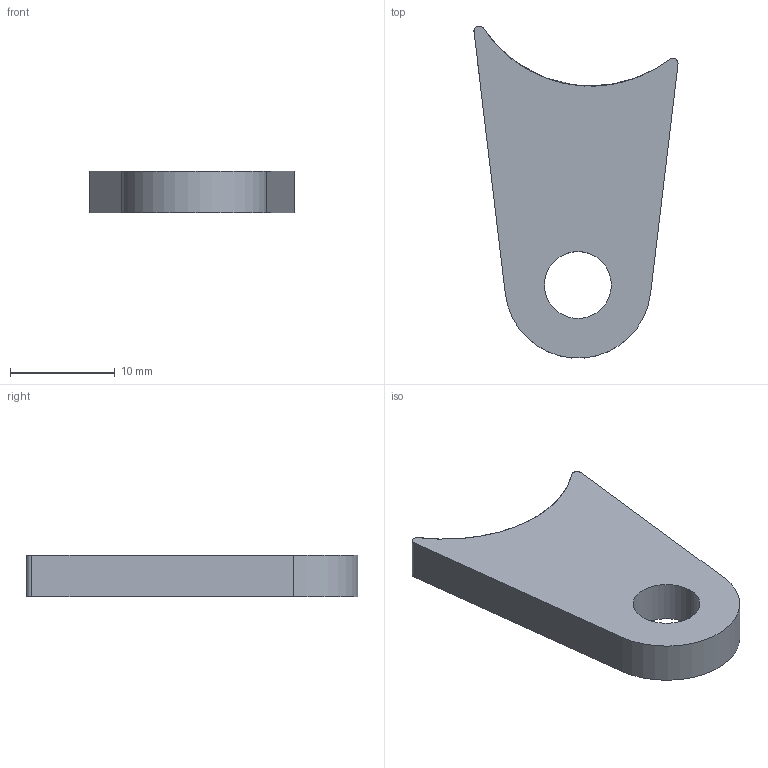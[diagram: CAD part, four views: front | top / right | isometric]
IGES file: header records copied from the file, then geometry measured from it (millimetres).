
Start section: START RECORD GO HERE.
Global section: file name: 20M_FL_FU.igs; native system: IBM CATIA IGES - CATIA Version 5 Release 19 ; preprocessor: CATIA Version 5 Release 19 ; author: alexb; organization: LAPTOP-PR6NE7IP; date: 20191216.210614; units: millimetre
Bounding box: 19.51 x 31.74 x 4 mm (x, y, z)
Surface area: 1210.9 mm2 (no closed solid volume)
Topology: 0 solids, 0 shells, 10 faces, 48 edges, 50 vertices
Faces by surface type: revolution 5, plane 4, extrusion 1
